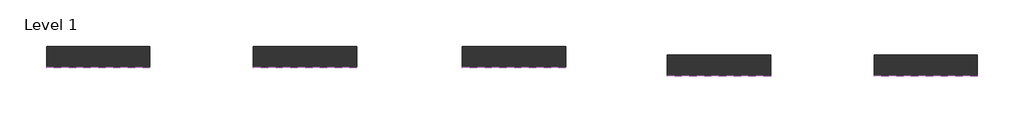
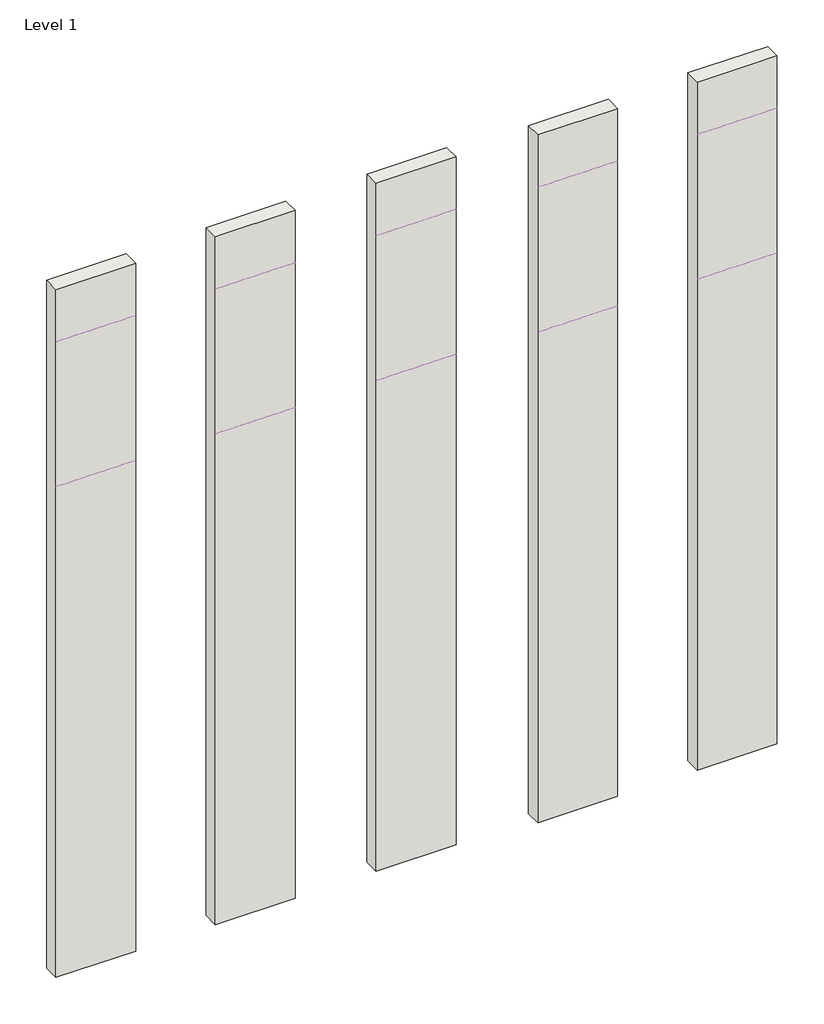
# One storey: 10 coverings, 5 walls.
"""IFC4 building model written with IfcOpenShell, lengths in millimetres."""

from ifc_helpers import new_model, si_unit, point, frame, frame_2d, origin, place, context, project, spatial, polyline, circle_curve, trimmed, segment, composite_curve, outline, extrude, element, save

model = new_model("IFC4")

# Units and contexts
model_context = context("Model", 3, world=origin())
ifc_project = project(units=[si_unit("LENGTHUNIT", "METRE", prefix="MILLI")], contexts=[model_context])

# Site, building, storey
site = spatial("IfcSite", under=ifc_project)
building = spatial("IfcBuilding", under=site)
storey = spatial("IfcBuildingStorey", under=building, Name="Level 1", Elevation=0.0)

# Coverings
placement = place(None, origin())
element("IfcCovering", 1, ObjectType="REVIGRÉS-REFLEX-RB-8X59,2-RECT-CARBON", at=placement, inside=storey, context=model_context, shape_type="SweptSolid", body=[
    extrude(outline(composite_curve([segment(polyline([(8707.5107048, 8310.0), (8697.0107048, 8310.0), (8697.0107048, 8379.5)]), True, "CONTINUOUS"), segment(trimmed(circle_curve(frame_2d((8707.5107048, 8379.5)), 10.5), [point((8697.0107048, 8379.5))], [point((8707.5107048, 8390.0))], False, "CARTESIAN"), True, "CONTINUOUS"), segment(polyline([(8707.5107048, 8390.0), (8707.5107048, 8310.0)]), True, "CONTINUOUS")], self_intersect=False)), frame((9831.8987293, 0.0, 0.0), z_axis=(1.0, 0.0, 0.0), x_axis=(0.0, 1.0, 0.0)), (0.0, 0.0, 1.0), 1000.0),
])
element("IfcCovering", 2, ObjectType="REVIGRÉS-REFLEX-RB-8X118,6-RECT-CARBON", at=placement, inside=storey, context=model_context, shape_type="SweptSolid", body=[
    extrude(outline(composite_curve([segment(polyline([(8707.5107048, 6390.0), (8697.0107048, 6390.0), (8697.0107048, 6459.5)]), True, "CONTINUOUS"), segment(trimmed(circle_curve(frame_2d((8707.5107048, 6459.5)), 10.5), [point((8697.0107048, 6459.5))], [point((8707.5107048, 6470.0))], False, "CARTESIAN"), True, "CONTINUOUS"), segment(polyline([(8707.5107048, 6470.0), (8707.5107048, 6390.0)]), True, "CONTINUOUS")], self_intersect=False)), frame((9831.8987293, 0.0, 0.0), z_axis=(1.0, 0.0, 0.0), x_axis=(0.0, 1.0, 0.0)), (0.0, 0.0, 1.0), 1000.0),
])
element("IfcCovering", 3, ObjectType="REVIGRÉS-REFLEX-RB-8X59,2-RECT-CORTEN", at=placement, inside=storey, context=model_context, shape_type="SweptSolid", body=[
    extrude(outline(composite_curve([segment(polyline([(8707.5107048, 8310.0), (8697.0107048, 8310.0), (8697.0107048, 8379.5)]), True, "CONTINUOUS"), segment(trimmed(circle_curve(frame_2d((8707.5107048, 8379.5)), 10.5), [point((8697.0107048, 8379.5))], [point((8707.5107048, 8390.0))], False, "CARTESIAN"), True, "CONTINUOUS"), segment(polyline([(8707.5107048, 8390.0), (8707.5107048, 8310.0)]), True, "CONTINUOUS")], self_intersect=False)), frame((11831.8987293, 0.0, 0.0), z_axis=(1.0, 0.0, 0.0), x_axis=(0.0, 1.0, 0.0)), (0.0, 0.0, 1.0), 1000.0),
])
element("IfcCovering", 4, ObjectType="REVIGRÉS-REFLEX-RB-8X59,2-RECT-GOLD", at=placement, inside=storey, context=model_context, shape_type="SweptSolid", body=[
    extrude(outline(composite_curve([segment(polyline([(8707.5107048, 8310.0), (8697.0107048, 8310.0), (8697.0107048, 8379.5)]), True, "CONTINUOUS"), segment(trimmed(circle_curve(frame_2d((8707.5107048, 8379.5)), 10.5), [point((8697.0107048, 8379.5))], [point((8707.5107048, 8390.0))], False, "CARTESIAN"), True, "CONTINUOUS"), segment(polyline([(8707.5107048, 8390.0), (8707.5107048, 8310.0)]), True, "CONTINUOUS")], self_intersect=False)), frame((13851.8987293, 0.0, 0.0), z_axis=(1.0, 0.0, 0.0), x_axis=(0.0, 1.0, 0.0)), (0.0, 0.0, 1.0), 1000.0),
])
element("IfcCovering", 5, ObjectType="REVIGRÉS-REFLEX-RB-8X59,2-RECT-OXIDE", at=placement, inside=storey, context=model_context, shape_type="SweptSolid", body=[
    extrude(outline(composite_curve([segment(polyline([(8623.1135284, 8310.0), (8612.6135284, 8310.0), (8612.6135284, 8379.5)]), True, "CONTINUOUS"), segment(trimmed(circle_curve(frame_2d((8623.1135284, 8379.5)), 10.5), [point((8612.6135284, 8379.5))], [point((8623.1135284, 8390.0))], False, "CARTESIAN"), True, "CONTINUOUS"), segment(polyline([(8623.1135284, 8390.0), (8623.1135284, 8310.0)]), True, "CONTINUOUS")], self_intersect=False)), frame((15831.8987293, 0.0, 0.0), z_axis=(1.0, 0.0, 0.0), x_axis=(0.0, 1.0, 0.0)), (0.0, 0.0, 1.0), 1000.0),
])
element("IfcCovering", 6, ObjectType="REVIGRÉS-REFLEX-RB-8X59,2-RECT-SILVER", at=placement, inside=storey, context=model_context, shape_type="SweptSolid", body=[
    extrude(outline(composite_curve([segment(polyline([(8623.1135284, 8310.0), (8612.6135284, 8310.0), (8612.6135284, 8379.5)]), True, "CONTINUOUS"), segment(trimmed(circle_curve(frame_2d((8623.1135284, 8379.5)), 10.5), [point((8612.6135284, 8379.5))], [point((8623.1135284, 8390.0))], False, "CARTESIAN"), True, "CONTINUOUS"), segment(polyline([(8623.1135284, 8390.0), (8623.1135284, 8310.0)]), True, "CONTINUOUS")], self_intersect=False)), frame((17831.8987293, 0.0, 0.0), z_axis=(1.0, 0.0, 0.0), x_axis=(0.0, 1.0, 0.0)), (0.0, 0.0, 1.0), 1000.0),
])
element("IfcCovering", 7, ObjectType="REVIGRÉS-REFLEX-RB-8X118,6-RECT-CORTEN", at=placement, inside=storey, context=model_context, shape_type="SweptSolid", body=[
    extrude(outline(composite_curve([segment(polyline([(8707.5107048, 6390.0), (8697.0107048, 6390.0), (8697.0107048, 6459.5)]), True, "CONTINUOUS"), segment(trimmed(circle_curve(frame_2d((8707.5107048, 6459.5)), 10.5), [point((8697.0107048, 6459.5))], [point((8707.5107048, 6470.0))], False, "CARTESIAN"), True, "CONTINUOUS"), segment(polyline([(8707.5107048, 6470.0), (8707.5107048, 6390.0)]), True, "CONTINUOUS")], self_intersect=False)), frame((11831.8987293, 0.0, 0.0), z_axis=(1.0, 0.0, 0.0), x_axis=(0.0, 1.0, 0.0)), (0.0, 0.0, 1.0), 1000.0),
])
element("IfcCovering", 8, ObjectType="REVIGRÉS-REFLEX-RB-8X118,6-RECT-GOLD", at=placement, inside=storey, context=model_context, shape_type="SweptSolid", body=[
    extrude(outline(composite_curve([segment(polyline([(8707.5107048, 6390.0), (8697.0107048, 6390.0), (8697.0107048, 6459.5)]), True, "CONTINUOUS"), segment(trimmed(circle_curve(frame_2d((8707.5107048, 6459.5)), 10.5), [point((8697.0107048, 6459.5))], [point((8707.5107048, 6470.0))], False, "CARTESIAN"), True, "CONTINUOUS"), segment(polyline([(8707.5107048, 6470.0), (8707.5107048, 6390.0)]), True, "CONTINUOUS")], self_intersect=False)), frame((13851.8987293, 0.0, 0.0), z_axis=(1.0, 0.0, 0.0), x_axis=(0.0, 1.0, 0.0)), (0.0, 0.0, 1.0), 1000.0),
])
element("IfcCovering", 9, ObjectType="REVIGRÉS-REFLEX-RB-8X118,6-RECT-OXIDE", at=placement, inside=storey, context=model_context, shape_type="SweptSolid", body=[
    extrude(outline(composite_curve([segment(polyline([(8623.1135284, 6390.0), (8612.6135284, 6390.0), (8612.6135284, 6459.5)]), True, "CONTINUOUS"), segment(trimmed(circle_curve(frame_2d((8623.1135284, 6459.5)), 10.5), [point((8612.6135284, 6459.5))], [point((8623.1135284, 6470.0))], False, "CARTESIAN"), True, "CONTINUOUS"), segment(polyline([(8623.1135284, 6470.0), (8623.1135284, 6390.0)]), True, "CONTINUOUS")], self_intersect=False)), frame((15831.8987293, 0.0, 0.0), z_axis=(1.0, 0.0, 0.0), x_axis=(0.0, 1.0, 0.0)), (0.0, 0.0, 1.0), 1000.0),
])
element("IfcCovering", 10, ObjectType="REVIGRÉS-REFLEX-RB-8X118,6-RECT-SILVER", at=placement, inside=storey, context=model_context, shape_type="SweptSolid", body=[
    extrude(outline(composite_curve([segment(polyline([(8623.1135284, 6390.0), (8612.6135284, 6390.0), (8612.6135284, 6459.5)]), True, "CONTINUOUS"), segment(trimmed(circle_curve(frame_2d((8623.1135284, 6459.5)), 10.5), [point((8612.6135284, 6459.5))], [point((8623.1135284, 6470.0))], False, "CARTESIAN"), True, "CONTINUOUS"), segment(polyline([(8623.1135284, 6470.0), (8623.1135284, 6390.0)]), True, "CONTINUOUS")], self_intersect=False)), frame((17831.8987293, 0.0, 0.0), z_axis=(1.0, 0.0, 0.0), x_axis=(0.0, 1.0, 0.0)), (0.0, 0.0, 1.0), 1000.0),
])

# Walls
element("IfcWall", 11, ObjectType="Wall 1", at=placement, inside=storey, context=model_context, shape_type="SweptSolid", body=[
    extrude(outline(polyline([(12831.8987293, 8707.5107048), (11831.8987293, 8707.5107048), (11831.8987293, 8907.5107048), (12831.8987293, 8907.5107048), (12831.8987293, 8707.5107048)])), frame((0.0, 0.0, -118.9026935), z_axis=(0.0, 0.0, 1.0), x_axis=(1.0, 0.0, 0.0)), (0.0, 0.0, 1.0), 9118.9026935),
])
element("IfcWall", 12, ObjectType="Wall 1", at=placement, inside=storey, context=model_context, shape_type="SweptSolid", body=[
    extrude(outline(polyline([(16831.8987293, 8623.1135284), (15831.8987293, 8623.1135284), (15831.8987293, 8823.1135284), (16831.8987293, 8823.1135284), (16831.8987293, 8623.1135284)])), frame((0.0, 0.0, -118.9026935), z_axis=(0.0, 0.0, 1.0), x_axis=(1.0, 0.0, 0.0)), (0.0, 0.0, 1.0), 9118.9026935),
])
element("IfcWall", 13, ObjectType="Wall 1", at=placement, inside=storey, context=model_context, shape_type="SweptSolid", body=[
    extrude(outline(polyline([(10831.8987293, 8707.5107048), (9831.8987293, 8707.5107048), (9831.8987293, 8907.5107048), (10831.8987293, 8907.5107048), (10831.8987293, 8707.5107048)])), frame((0.0, 0.0, -118.9026935), z_axis=(0.0, 0.0, 1.0), x_axis=(1.0, 0.0, 0.0)), (0.0, 0.0, 1.0), 9118.9026935),
])
element("IfcWall", 14, ObjectType="Wall 1", at=placement, inside=storey, context=model_context, shape_type="SweptSolid", body=[
    extrude(outline(polyline([(14851.8987293, 8707.5107048), (13851.8987293, 8707.5107048), (13851.8987293, 8907.5107048), (14851.8987293, 8907.5107048), (14851.8987293, 8707.5107048)])), frame((0.0, 0.0, -118.9026935), z_axis=(0.0, 0.0, 1.0), x_axis=(1.0, 0.0, 0.0)), (0.0, 0.0, 1.0), 9118.9026935),
])
element("IfcWall", 15, ObjectType="Wall 1", at=placement, inside=storey, context=model_context, shape_type="SweptSolid", body=[
    extrude(outline(polyline([(18831.8987293, 8623.1135284), (17831.8987293, 8623.1135284), (17831.8987293, 8823.1135284), (18831.8987293, 8823.1135284), (18831.8987293, 8623.1135284)])), frame((0.0, 0.0, -118.9026935), z_axis=(0.0, 0.0, 1.0), x_axis=(1.0, 0.0, 0.0)), (0.0, 0.0, 1.0), 9118.9026935),
])

save(model, "model.ifc")
